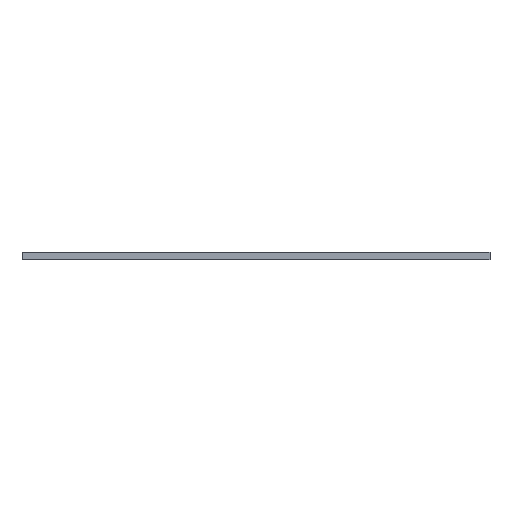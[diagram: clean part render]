
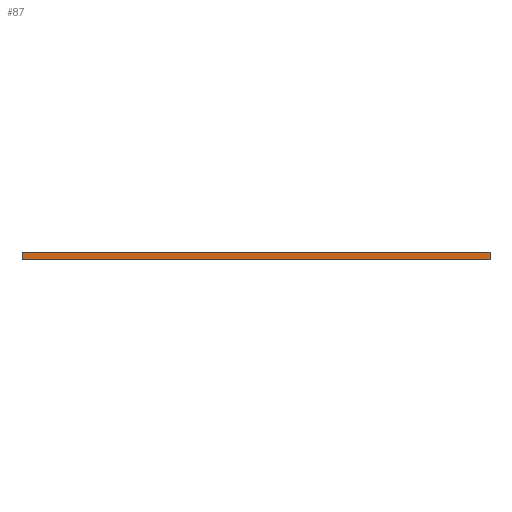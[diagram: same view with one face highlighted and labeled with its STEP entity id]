
A CAD part, left-side view. The second image highlights one B-rep face of the part: STEP entity #87.
In plain terms, the highlighted planar face has unit normal (-1, 0, 0).
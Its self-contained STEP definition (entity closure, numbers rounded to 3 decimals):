
#87=ADVANCED_FACE('',(#545),#547,.T.);
#545=FACE_BOUND('',#546,.T.);
#546=EDGE_LOOP('',(#817,#818,#819,#820));
#547=PLANE('',#548);
#548=AXIS2_PLACEMENT_3D('',#549,#550,#551);
#549=CARTESIAN_POINT('',(-440.6,42.8,-1.4));
#550=DIRECTION('',(-1.,0.,0.));
#551=DIRECTION('',(0.,0.,1.));
#817=ORIENTED_EDGE('',*,*,#961,.F.);
#818=ORIENTED_EDGE('',*,*,#977,.F.);
#819=ORIENTED_EDGE('',*,*,#945,.T.);
#820=ORIENTED_EDGE('',*,*,#978,.T.);
#945=EDGE_CURVE('',#1121,#1122,#1123,.T.);
#961=EDGE_CURVE('',#1153,#1154,#1155,.T.);
#977=EDGE_CURVE('',#1121,#1153,#1185,.T.);
#978=EDGE_CURVE('',#1122,#1154,#1186,.T.);
#1121=VERTEX_POINT('',#1521);
#1122=VERTEX_POINT('',#1522);
#1123=LINE('',#1523,#1524);
#1153=VERTEX_POINT('',#1585);
#1154=VERTEX_POINT('',#1586);
#1155=LINE('',#1587,#1588);
#1185=LINE('',#1649,#1650);
#1186=LINE('',#1652,#1653);
#1521=CARTESIAN_POINT('',(-440.6,42.8,-1.4));
#1522=CARTESIAN_POINT('',(-440.6,-42.8,-1.4));
#1523=CARTESIAN_POINT('',(-440.6,42.8,-1.4));
#1524=VECTOR('',#1525,1.);
#1525=DIRECTION('',(0.,-1.,0.));
#1585=CARTESIAN_POINT('',(-440.6,42.8,0.));
#1586=CARTESIAN_POINT('',(-440.6,-42.8,0.));
#1587=CARTESIAN_POINT('',(-440.6,42.8,0.));
#1588=VECTOR('',#1589,1.);
#1589=DIRECTION('',(0.,-1.,0.));
#1649=CARTESIAN_POINT('',(-440.6,42.8,-1.4));
#1650=VECTOR('',#1651,1.);
#1651=DIRECTION('',(0.,0.,1.));
#1652=CARTESIAN_POINT('',(-440.6,-42.8,-1.4));
#1653=VECTOR('',#1654,1.);
#1654=DIRECTION('',(0.,0.,1.));
